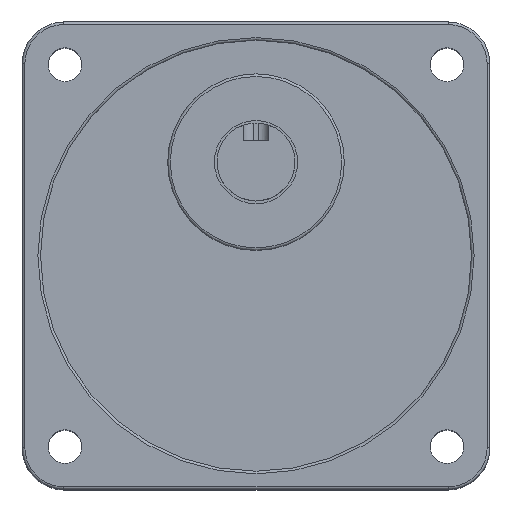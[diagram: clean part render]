
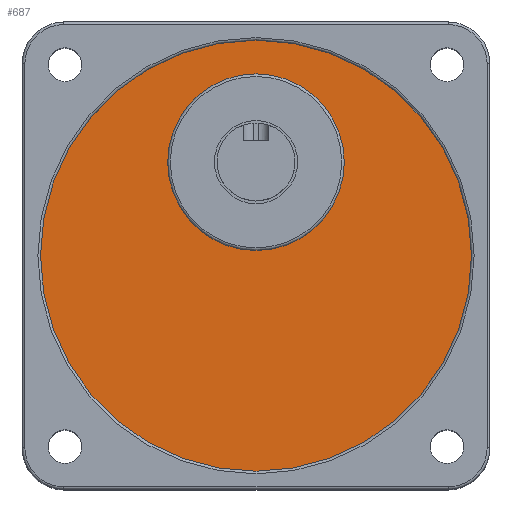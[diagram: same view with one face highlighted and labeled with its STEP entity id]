
A CAD part, top view. The second image highlights one B-rep face of the part: STEP entity #687.
In plain terms, the highlighted planar face has unit normal (0, 0, 1).
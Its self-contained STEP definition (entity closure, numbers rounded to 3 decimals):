
#621=CARTESIAN_POINT('',(17.0,18.,64.5));
#622=VERTEX_POINT('',#621);
#623=CARTESIAN_POINT('',(0.0,18.0,64.5));
#624=DIRECTION('',(0.0,0.0,1.0));
#625=DIRECTION('',(-1.0,0.0,0.0));
#626=AXIS2_PLACEMENT_3D('',#623,#624,#625);
#627=CIRCLE('',#626,17.0);
#628=EDGE_CURVE('',#622,#622,#627,.T.);
#661=CARTESIAN_POINT('',(41.5,0.,64.5));
#662=VERTEX_POINT('',#661);
#663=CARTESIAN_POINT('',(0.0,0.0,64.5));
#664=DIRECTION('',(0.0,0.0,1.0));
#665=DIRECTION('',(-1.0,0.0,0.0));
#666=AXIS2_PLACEMENT_3D('',#663,#664,#665);
#667=CIRCLE('',#666,41.5);
#668=EDGE_CURVE('',#662,#662,#667,.T.);
#676=CARTESIAN_POINT('',(0.0,0.0,64.5));
#677=DIRECTION('',(0.0,0.0,-1.0));
#678=DIRECTION('',(-1.0,0.0,0.0));
#679=AXIS2_PLACEMENT_3D('',#676,#677,#678);
#680=PLANE('',#679);
#681=ORIENTED_EDGE('',*,*,#668,.T.);
#682=EDGE_LOOP('',(#681));
#683=FACE_OUTER_BOUND('',#682,.T.);
#684=ORIENTED_EDGE('',*,*,#628,.F.);
#685=EDGE_LOOP('',(#684));
#686=FACE_BOUND('',#685,.T.);
#687=ADVANCED_FACE('',(#683,#686),#680,.F.);
